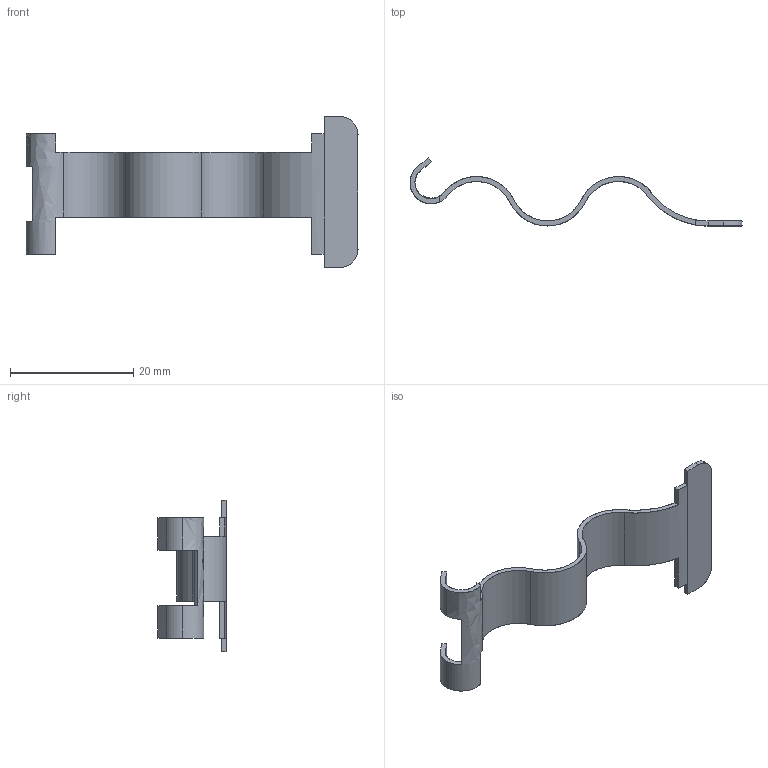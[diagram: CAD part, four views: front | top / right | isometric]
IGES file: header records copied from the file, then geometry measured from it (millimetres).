
Start section: SolidWorks IGES FILE using analytic representation for surfaces
Global section: file name: C:\Documents and Settings\lecoutey\Bureau\GP 1047\1047.060.10.IGS; native system: SolidWorks 2004 by SolidWorks Corporation; preprocessor: Version 5.3; author: lecoutey; date: 050329.154339; units: millimetre
Bounding box: 53.79 x 11.02 x 24.5 mm (x, y, z)
Surface area: 1873.4 mm2 (no closed solid volume)
Topology: 0 solids, 0 shells, 42 faces, 520 edges, 520 vertices
Faces by surface type: bspline 26, revolution 16
